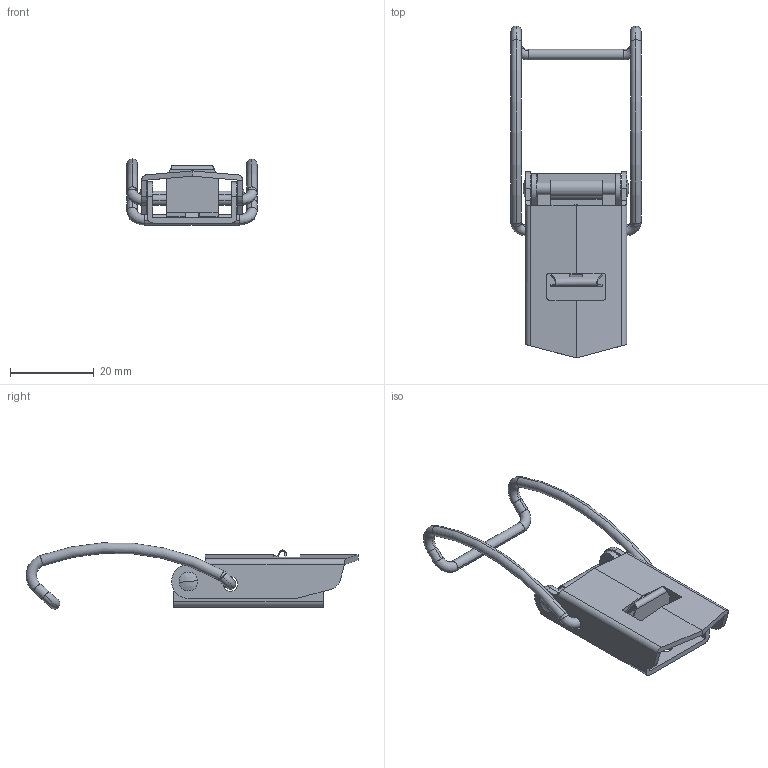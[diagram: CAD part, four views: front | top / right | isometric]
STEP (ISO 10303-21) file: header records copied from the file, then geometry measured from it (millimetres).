
FILE_DESCRIPTION (( 'STEP AP203' ), '1' );
FILE_NAME ('ST202.STEP', '2007-02-15T19:03:51', ( 'SlawekZ' ), ( 'RST' ), 'SwSTEP 2.0', 'SolidWorks 2004231', '' );
FILE_SCHEMA (( 'CONFIG_CONTROL_DESIGN' ));
Length unit declared in the file: millimetre
Products named in the file (6): Stopa; Nit; ST202; DŸwignia; Sprê¿yna; Sprê¿ynka zabezpieczaj¹ca
Assembly tree (5 placements, depth 2):
  ST202
    Sprê¿yna
    DŸwignia
    Sprê¿ynka zabezpieczaj¹ca
    Nit
    Stopa
Bounding box: 31 x 79.1 x 15.76 mm (x, y, z)
Volume: 4259.3 mm3; surface area: 8473 mm2
Topology: 5 solids, 5 shells, 204 faces, 576 edges, 378 vertices
Faces by surface type: plane 91, cylinder 85, torus 16, bspline 8, sphere 4
Entity records: 8008 total; most frequent: CARTESIAN_POINT 1960, ORIENTED_EDGE 1152, DIRECTION 1148, EDGE_CURVE 576, AXIS2_PLACEMENT_3D 406, VERTEX_POINT 378, VECTOR 336, LINE 336
